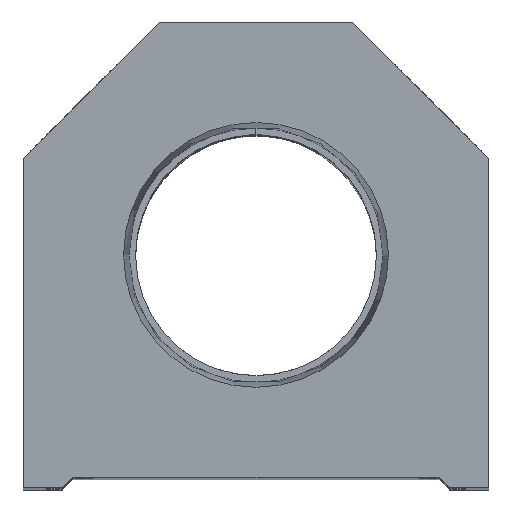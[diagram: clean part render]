
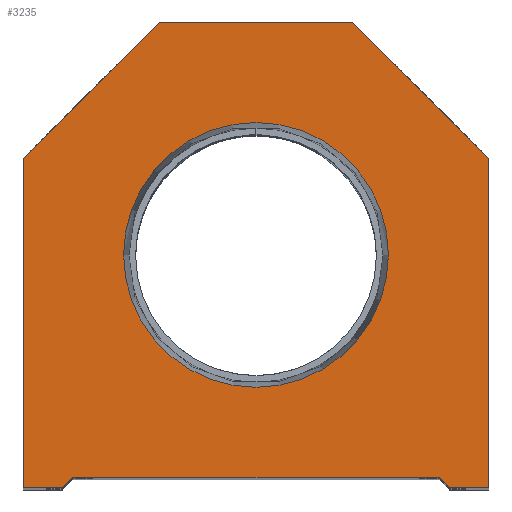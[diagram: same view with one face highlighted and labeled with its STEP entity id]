
A CAD part, top view. The second image highlights one B-rep face of the part: STEP entity #3235.
In plain terms, the highlighted planar face has unit normal (0, 0, 1).
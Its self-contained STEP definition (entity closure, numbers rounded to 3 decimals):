
#203 = DIRECTION ( 'NONE',  ( -0.707, 0.707, 0. ) ) ;
#303 = VERTEX_POINT ( 'NONE', #12211 ) ;
#536 = CARTESIAN_POINT ( 'NONE',  ( 22.25, 0., 0. ) ) ;
#812 = CIRCLE ( 'NONE', #5554, 12.647 ) ;
#853 = CARTESIAN_POINT ( 'NONE',  ( -22.25, 0., 0. ) ) ;
#922 = LINE ( 'NONE', #853, #4932 ) ;
#943 = EDGE_LOOP ( 'NONE', ( #3891, #13567 ) ) ;
#968 = EDGE_LOOP ( 'NONE', ( #10037, #3397, #14518, #14279, #6128, #8398, #4514, #14430, #3234, #5107 ) ) ;
#1045 = CARTESIAN_POINT ( 'NONE',  ( 22.25, 0., 0. ) ) ;
#1522 = DIRECTION ( 'NONE',  ( 1., 0., 0. ) ) ;
#1608 = CARTESIAN_POINT ( 'NONE',  ( -17.5, 1., 0. ) ) ;
#1642 = DIRECTION ( 'NONE',  ( 0., 0., 1. ) ) ;
#1755 = CARTESIAN_POINT ( 'NONE',  ( 18.5, 0., 0. ) ) ;
#1775 = CARTESIAN_POINT ( 'NONE',  ( 9.25, 9.25, 0. ) ) ;
#1952 = VERTEX_POINT ( 'NONE', #1755 ) ;
#2069 = CARTESIAN_POINT ( 'NONE',  ( 22.25, 31.5, 0. ) ) ;
#2262 = DIRECTION ( 'NONE',  ( 1., 0., 0. ) ) ;
#2268 = VECTOR ( 'NONE', #6422, 1000. ) ;
#2381 = VECTOR ( 'NONE', #4592, 1000. ) ;
#2454 = EDGE_CURVE ( 'NONE', #3812, #7190, #922, .T. ) ;
#2540 = CARTESIAN_POINT ( 'NONE',  ( 9.25, 44.5, 0. ) ) ;
#2580 = DIRECTION ( 'NONE',  ( 1., 0., 0. ) ) ;
#2636 = VECTOR ( 'NONE', #203, 1000. ) ;
#2787 = LINE ( 'NONE', #1608, #4972 ) ;
#2800 = EDGE_CURVE ( 'NONE', #1952, #10058, #3255, .T. ) ;
#2960 = CARTESIAN_POINT ( 'NONE',  ( -18.5, 0., 0. ) ) ;
#3044 = LINE ( 'NONE', #1775, #8477 ) ;
#3234 = ORIENTED_EDGE ( 'NONE', *, *, #5713, .T. ) ;
#3235 = ADVANCED_FACE ( 'NONE', ( #7783, #10488 ), #4504, .T. ) ;
#3255 = LINE ( 'NONE', #14056, #8192 ) ;
#3397 = ORIENTED_EDGE ( 'NONE', *, *, #9567, .T. ) ;
#3505 = CARTESIAN_POINT ( 'NONE',  ( -22.25, 31.5, 0. ) ) ;
#3624 = EDGE_CURVE ( 'NONE', #12060, #1952, #3044, .T. ) ;
#3735 = DIRECTION ( 'NONE',  ( -1., 0., 0. ) ) ;
#3772 = CARTESIAN_POINT ( 'NONE',  ( 0., 22.25, 0. ) ) ;
#3812 = VERTEX_POINT ( 'NONE', #10918 ) ;
#3818 = EDGE_CURVE ( 'NONE', #15048, #12060, #2787, .T. ) ;
#3820 = CARTESIAN_POINT ( 'NONE',  ( -12.647, 22.25, 0. ) ) ;
#3868 = CARTESIAN_POINT ( 'NONE',  ( 12.647, 22.25, 0. ) ) ;
#3891 = ORIENTED_EDGE ( 'NONE', *, *, #8887, .F. ) ;
#4504 = PLANE ( 'NONE',  #11694 ) ;
#4514 = ORIENTED_EDGE ( 'NONE', *, *, #14456, .T. ) ;
#4592 = DIRECTION ( 'NONE',  ( 0., 1., 0. ) ) ;
#4849 = CARTESIAN_POINT ( 'NONE',  ( 0., 22.25, 0. ) ) ;
#4932 = VECTOR ( 'NONE', #11779, 1000. ) ;
#4969 = EDGE_CURVE ( 'NONE', #7190, #14209, #8853, .T. ) ;
#4972 = VECTOR ( 'NONE', #1522, 1000. ) ;
#5107 = ORIENTED_EDGE ( 'NONE', *, *, #2454, .T. ) ;
#5554 = AXIS2_PLACEMENT_3D ( 'NONE', #3772, #1642, #2580 ) ;
#5713 = EDGE_CURVE ( 'NONE', #9078, #3812, #14070, .T. ) ;
#5738 = EDGE_CURVE ( 'NONE', #303, #9078, #6133, .T. ) ;
#6126 = CARTESIAN_POINT ( 'NONE',  ( 22.25, 31.5, 0. ) ) ;
#6128 = ORIENTED_EDGE ( 'NONE', *, *, #2800, .T. ) ;
#6133 = LINE ( 'NONE', #2540, #10547 ) ;
#6422 = DIRECTION ( 'NONE',  ( 0.707, 0.707, 0. ) ) ;
#6743 = VERTEX_POINT ( 'NONE', #3820 ) ;
#6921 = DIRECTION ( 'NONE',  ( -0.707, -0.707, 0. ) ) ;
#7060 = LINE ( 'NONE', #6126, #2636 ) ;
#7190 = VERTEX_POINT ( 'NONE', #12585 ) ;
#7666 = LINE ( 'NONE', #9957, #2268 ) ;
#7783 = FACE_BOUND ( 'NONE', #943, .T. ) ;
#7955 = EDGE_CURVE ( 'NONE', #6743, #14758, #10822, .T. ) ;
#8192 = VECTOR ( 'NONE', #12733, 1000. ) ;
#8398 = ORIENTED_EDGE ( 'NONE', *, *, #13500, .T. ) ;
#8449 = CARTESIAN_POINT ( 'NONE',  ( 17.5, 1., 0. ) ) ;
#8477 = VECTOR ( 'NONE', #12677, 1000. ) ;
#8853 = LINE ( 'NONE', #12292, #14482 ) ;
#8887 = EDGE_CURVE ( 'NONE', #14758, #6743, #812, .T. ) ;
#9078 = VERTEX_POINT ( 'NONE', #15406 ) ;
#9567 = EDGE_CURVE ( 'NONE', #14209, #15048, #7666, .T. ) ;
#9957 = CARTESIAN_POINT ( 'NONE',  ( -9.25, 9.25, 0. ) ) ;
#10037 = ORIENTED_EDGE ( 'NONE', *, *, #4969, .T. ) ;
#10058 = VERTEX_POINT ( 'NONE', #536 ) ;
#10488 = FACE_OUTER_BOUND ( 'NONE', #968, .T. ) ;
#10547 = VECTOR ( 'NONE', #3735, 1000. ) ;
#10822 = CIRCLE ( 'NONE', #14356, 12.647 ) ;
#10918 = CARTESIAN_POINT ( 'NONE',  ( -22.25, 31.5, 0. ) ) ;
#11027 = DIRECTION ( 'NONE',  ( 1., 0., 0. ) ) ;
#11388 = CARTESIAN_POINT ( 'NONE',  ( 0., 0., 0. ) ) ;
#11694 = AXIS2_PLACEMENT_3D ( 'NONE', #11388, #15276, #15203 ) ;
#11779 = DIRECTION ( 'NONE',  ( 0., -1., 0. ) ) ;
#12060 = VERTEX_POINT ( 'NONE', #8449 ) ;
#12070 = LINE ( 'NONE', #1045, #2381 ) ;
#12211 = CARTESIAN_POINT ( 'NONE',  ( 9.25, 44.5, 0. ) ) ;
#12292 = CARTESIAN_POINT ( 'NONE',  ( -17.5, 0., 0. ) ) ;
#12585 = CARTESIAN_POINT ( 'NONE',  ( -22.25, 0., 0. ) ) ;
#12677 = DIRECTION ( 'NONE',  ( 0.707, -0.707, 0. ) ) ;
#12733 = DIRECTION ( 'NONE',  ( 1., 0., 0. ) ) ;
#12924 = DIRECTION ( 'NONE',  ( 0., 0., 1. ) ) ;
#13500 = EDGE_CURVE ( 'NONE', #10058, #14324, #12070, .T. ) ;
#13567 = ORIENTED_EDGE ( 'NONE', *, *, #7955, .F. ) ;
#13586 = VECTOR ( 'NONE', #6921, 1000. ) ;
#14056 = CARTESIAN_POINT ( 'NONE',  ( 17.5, 0., 0. ) ) ;
#14070 = LINE ( 'NONE', #3505, #13586 ) ;
#14209 = VERTEX_POINT ( 'NONE', #2960 ) ;
#14279 = ORIENTED_EDGE ( 'NONE', *, *, #3624, .T. ) ;
#14324 = VERTEX_POINT ( 'NONE', #2069 ) ;
#14356 = AXIS2_PLACEMENT_3D ( 'NONE', #4849, #12924, #2262 ) ;
#14430 = ORIENTED_EDGE ( 'NONE', *, *, #5738, .T. ) ;
#14456 = EDGE_CURVE ( 'NONE', #14324, #303, #7060, .T. ) ;
#14482 = VECTOR ( 'NONE', #11027, 1000. ) ;
#14518 = ORIENTED_EDGE ( 'NONE', *, *, #3818, .T. ) ;
#14758 = VERTEX_POINT ( 'NONE', #3868 ) ;
#15048 = VERTEX_POINT ( 'NONE', #15238 ) ;
#15203 = DIRECTION ( 'NONE',  ( 1., 0., 0. ) ) ;
#15238 = CARTESIAN_POINT ( 'NONE',  ( -17.5, 1., 0. ) ) ;
#15276 = DIRECTION ( 'NONE',  ( 0., 0., 1. ) ) ;
#15406 = CARTESIAN_POINT ( 'NONE',  ( -9.25, 44.5, 0. ) ) ;
